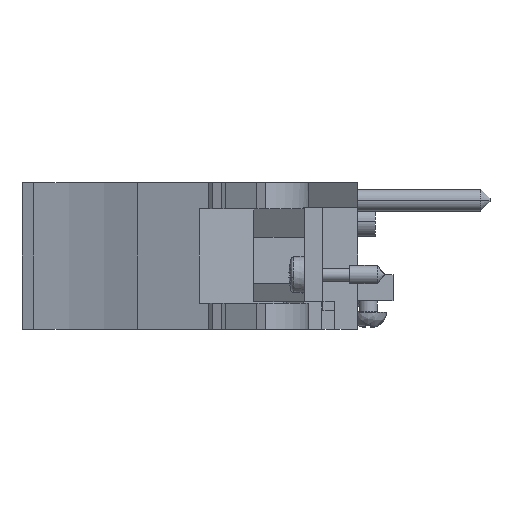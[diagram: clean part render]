
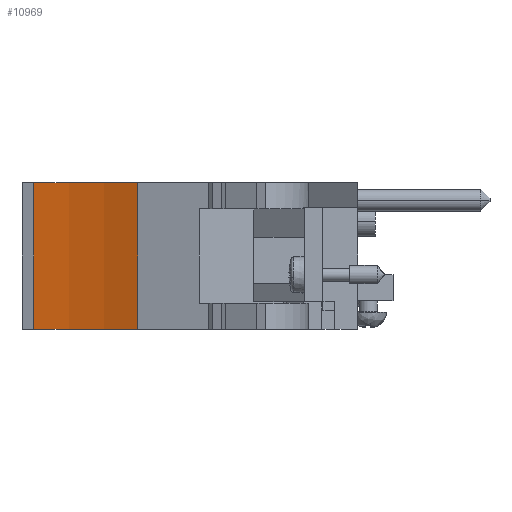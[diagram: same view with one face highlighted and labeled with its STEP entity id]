
A CAD part, front view. The second image highlights one B-rep face of the part: STEP entity #10969.
In plain terms, the highlighted cylindrical face has radius 51.46 mm (diameter 102.919 mm), a partial arc.
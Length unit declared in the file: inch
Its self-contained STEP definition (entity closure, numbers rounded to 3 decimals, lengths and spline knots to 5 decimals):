
#571=CARTESIAN_POINT('',(-1.97633,-5.95079,0.696));
#572=DIRECTION('',(0.,0.,1.));
#573=DIRECTION('',(0.435,0.9,0.));
#574=AXIS2_PLACEMENT_3D('',#571,#572,#573);
#940=CARTESIAN_POINT('',(-1.97633,-5.95079,-0.092));
#941=DIRECTION('',(0.,0.,1.));
#942=DIRECTION('',(0.435,0.9,0.));
#943=AXIS2_PLACEMENT_3D('',#940,#941,#942);
#1150=DIRECTION('',(0.,0.,1.));
#1151=VECTOR('',#1150,0.788);
#1152=CARTESIAN_POINT('',(-1.653,-3.95079,-0.092));
#1153=LINE('',#1152,#1151);
#1158=DIRECTION('',(0.,0.,1.));
#1159=VECTOR('',#1158,0.788);
#1160=CARTESIAN_POINT('',(-1.09503,-4.12655,-0.092));
#1161=LINE('',#1160,#1159);
#8421=CARTESIAN_POINT('',(-1.09503,-4.12655,-0.092));
#8422=CARTESIAN_POINT('',(-1.653,-3.95079,-0.092));
#8423=VERTEX_POINT('',#8421);
#8424=VERTEX_POINT('',#8422);
#8425=CARTESIAN_POINT('',(-1.09503,-4.12655,0.696));
#8426=CARTESIAN_POINT('',(-1.653,-3.95079,0.696));
#8427=VERTEX_POINT('',#8425);
#8428=VERTEX_POINT('',#8426);
#10957=CARTESIAN_POINT('',(-1.97633,-5.95079,0.696));
#10958=DIRECTION('',(0.,0.,1.));
#10959=DIRECTION('',(0.,1.,0.));
#10960=AXIS2_PLACEMENT_3D('',#10957,#10958,#10959);
#10961=CYLINDRICAL_SURFACE('',#10960,2.02597);
#10962=ORIENTED_EDGE('',*,*,#10765,.T.);
#10963=ORIENTED_EDGE('',*,*,#10949,.T.);
#10964=ORIENTED_EDGE('',*,*,#10360,.F.);
#10966=ORIENTED_EDGE('',*,*,#10965,.F.);
#10967=EDGE_LOOP('',(#10962,#10963,#10964,#10966));
#10968=FACE_OUTER_BOUND('',#10967,.F.);
#10969=ADVANCED_FACE('',(#10968),#10961,.F.);
#575=CIRCLE('',#574,2.02597);
#944=CIRCLE('',#943,2.02597);
#10360=EDGE_CURVE('',#8427,#8428,#575,.T.);
#10765=EDGE_CURVE('',#8423,#8424,#944,.T.);
#10949=EDGE_CURVE('',#8424,#8428,#1153,.T.);
#10965=EDGE_CURVE('',#8423,#8427,#1161,.T.);
